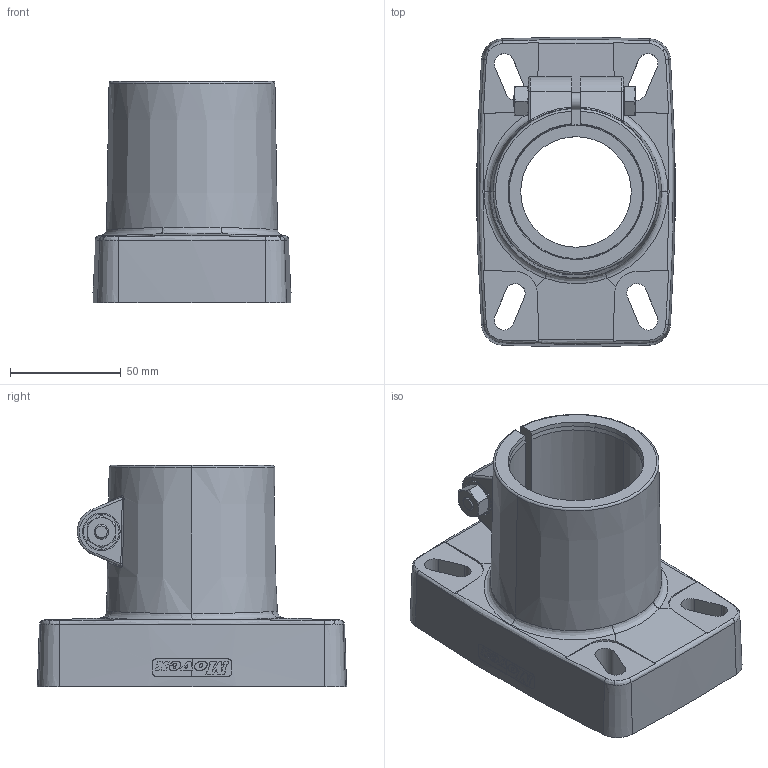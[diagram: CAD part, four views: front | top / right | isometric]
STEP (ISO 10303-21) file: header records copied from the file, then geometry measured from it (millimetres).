
FILE_DESCRIPTION(('CATIA V5 STEP Exchange'),'2;1');
FILE_NAME('X:\CODICI MOVEX\3D per clienti\3D definitivi\Part 400\P41002_01.stp','2016-09-27T08:17:50+00:00',('none'),('none'),'Version 5-6 Release 2012','CATIA V5 STEP AP203','none');
FILE_SCHEMA(('CONFIG_CONTROL_DESIGN'));
Length unit declared in the file: millimetre
Products named in the file (1): P41002_01
Assembly tree (5 placements, depth 2):
  P41002_01
    #58
    #61015  x2
    #61233
    #61911
Bounding box: 89.65 x 139.85 x 100 mm (x, y, z)
Volume: 289281.7 mm3; surface area: 110631 mm2
Topology: 5 solids, 17 shells, 1433 faces, 3952 edges, 2521 vertices
Faces by surface type: plane 988, cylinder 174, bspline 158, cone 55, sphere 50, torus 8
Entity records: 62421 total; most frequent: CARTESIAN_POINT 31391, ORIENTED_EDGE 7780, DIRECTION 4156, EDGE_CURVE 3890, VERTEX_POINT 2513, B_SPLINE_CURVE_WITH_KNOTS 2056, AXIS2_PLACEMENT_3D 1546, EDGE_LOOP 1463
